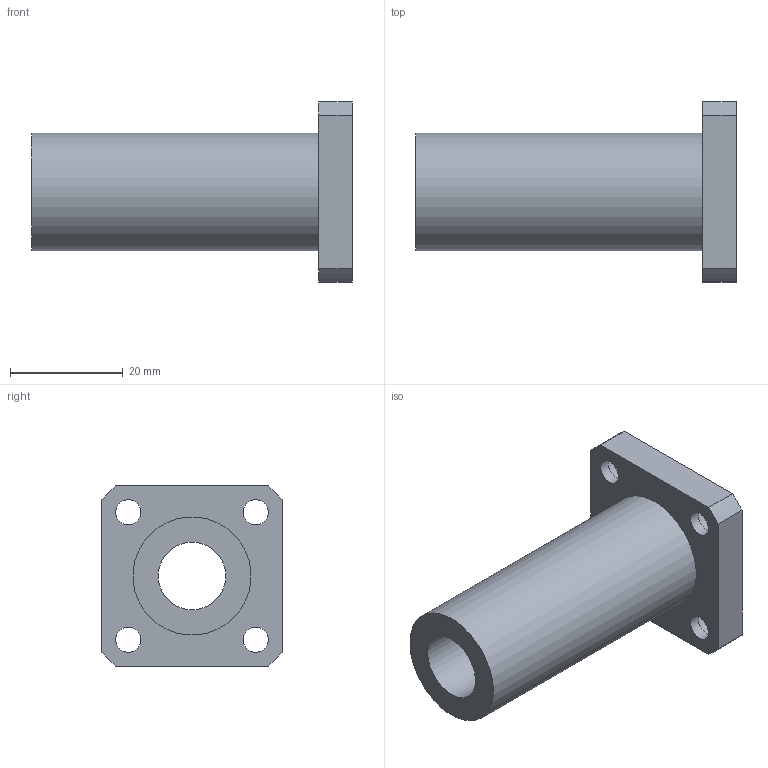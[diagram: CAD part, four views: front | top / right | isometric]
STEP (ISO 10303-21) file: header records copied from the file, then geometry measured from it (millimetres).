
FILE_DESCRIPTION(/* description */ (''),/* implementation_level */ '2;1');
FILE_NAME(/* name */ 'LMK12LUU',/* time_stamp */ '2019-07-09T15:48:20+02:00',/* author */ ('VĂ©gh MĂˇtĂ©'),/* organization */ ('Bearing Kft'),/* preprocessor_version */ 'ST-DEVELOPER v16.7',/* originating_system */ 'DEX',/* authorisation */ $);
FILE_SCHEMA (('AUTOMOTIVE_DESIGN {1 0 10303 214 3 1 1}'));
Length unit declared in the file: millimetre
Products named in the file (1): LMK12LUU
Bounding box: 57 x 32 x 32 mm (x, y, z)
Volume: 16449.5 mm3; surface area: 8429.6 mm2
Topology: 1 solids, 1 shells, 335 faces, 846 edges, 564 vertices
Faces by surface type: plane 260, bspline 58, cylinder 17
Full cylindrical faces by diameter (mm): 4.5 x4, 7.5 x4, 12 x1, 21 x1
Entity records: 12541 total; most frequent: CARTESIAN_POINT 4813, ORIENTED_EDGE 1670, DIRECTION 1309, EDGE_CURVE 835, LINE 685, VECTOR 685, VERTEX_POINT 564, EDGE_LOOP 407
